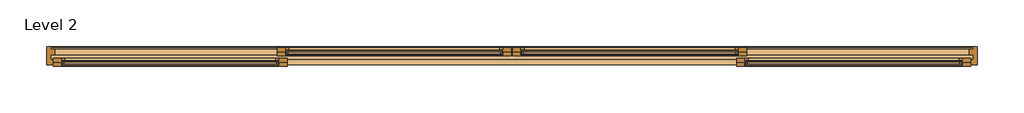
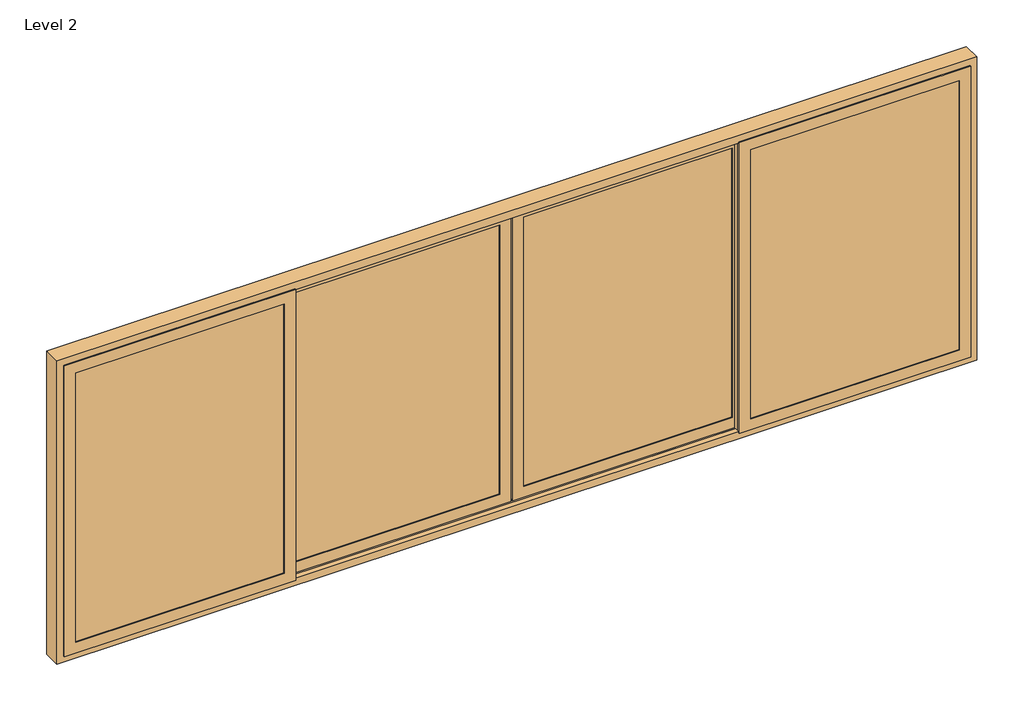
# One storey: 1 door.
"""IFC4 building model written with IfcOpenShell, lengths in millimetres."""

from ifc_helpers import new_model, si_unit, origin, place, context, project, spatial, transform, mapped, element, save
from components import standard_4e310cbc

model = new_model("IFC4")

# Units and contexts
model_context = context("Model", 3, world=origin())
ifc_project = project(units=[si_unit("LENGTHUNIT", "METRE", prefix="MILLI")], contexts=[model_context])

# Site, building, storey
site = spatial("IfcSite", under=ifc_project)
building = spatial("IfcBuilding", under=site)
storey = spatial("IfcBuildingStorey", under=building, Name="Level 2", Elevation=3000.0)

# Door
placement = place(None, origin())
standard_shape = standard_4e310cbc(model_context)
element("IfcDoor", 1, ObjectType="SMARTS_Visoglide Plus : Standard", at=placement, inside=storey, context=model_context, shape_type="MappedRepresentation", body=[
    mapped(standard_shape, transform((-251879.9951777, 24312.6264647, 3000.0), x_axis=(-1.0, 0.0, 0.0), y_axis=(0.0, -1.0, 0.0), z_axis=(0.0, 0.0, 1.0))),
])

save(model, "model.ifc")
